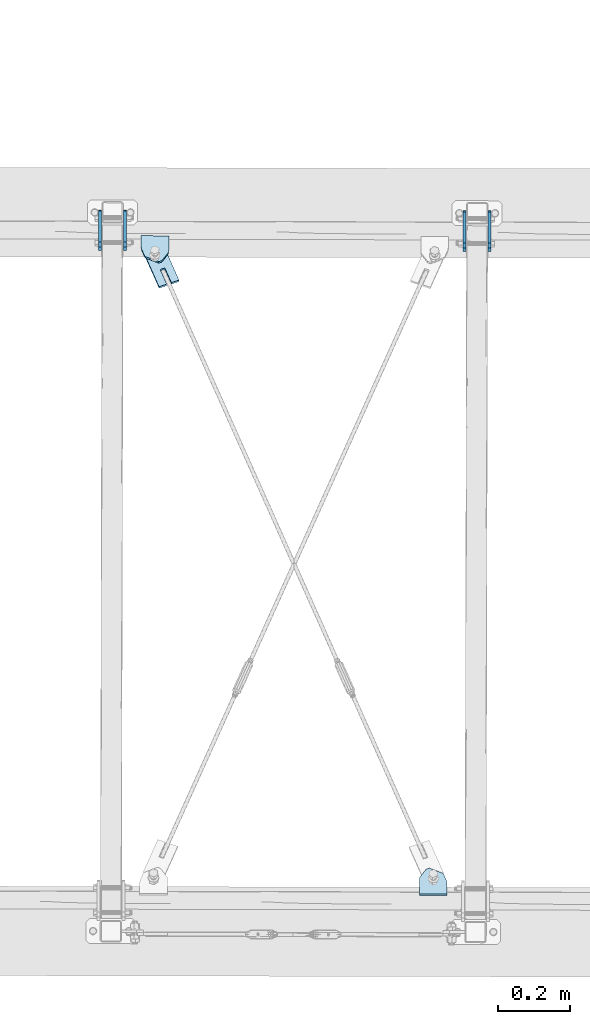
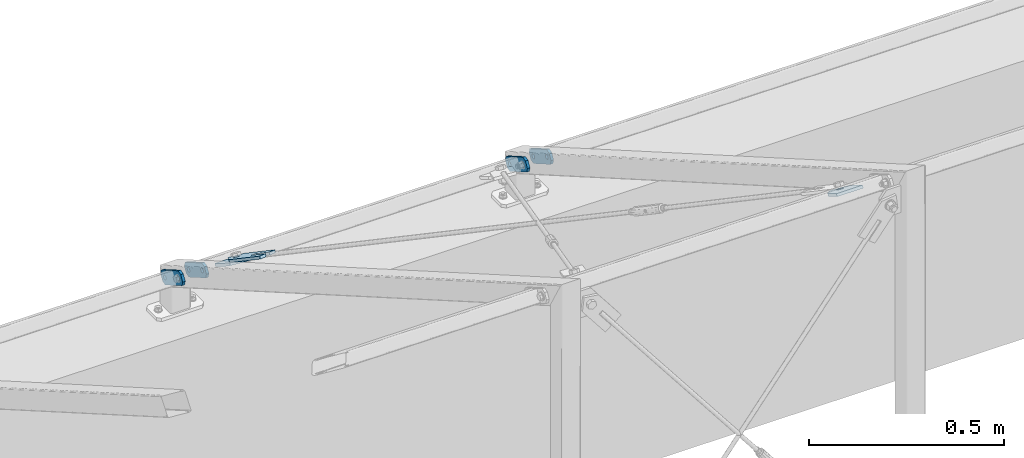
# One storey, part 35 of 288: 7 plates, 36 openings.
"""IFC2X3 building model written with IfcOpenShell, lengths in millimetres."""

from ifc_helpers import new_model, entity, si_unit, converted_unit, point, frame, frame_2d, origin, origin_with_axes, place, context, project, spatial, polyline, circle_curve, line_curve, trimmed, segment, composite_curve, circle, outline, extrude, material, layer, layer_set, element, save


model = new_model("IFC2X3")

# Units and contexts
model_context = context("Model", 3, precision=1e-09, world=origin_with_axes())
ifc_project = project(units=[si_unit("LENGTHUNIT", "METRE", prefix="MILLI"), si_unit("AREAUNIT", "SQUARE_METRE"), si_unit("VOLUMEUNIT", "CUBIC_METRE"), converted_unit("PLANEANGLEUNIT", "DEGREE", entity("IfcPlaneAngleMeasure", 0.01745329), si_unit("PLANEANGLEUNIT", "RADIAN"), dimensions=[0, 0, 0, 0, 0, 0, 0])], contexts=[model_context])

# Site, building, storey
site_placement = place(None, origin_with_axes())
site = spatial("IfcSite", under=ifc_project, at=site_placement, Name="Remont ?wietlik?w nad MC w NCPP w Opolu", CompositionType="ELEMENT")
building_placement = place(site_placement, origin_with_axes())
building = spatial("IfcBuilding", under=site, at=building_placement, Name="Konstrukcja 1", CompositionType="ELEMENT")
storey_placement = place(building_placement, origin_with_axes())
storey = spatial("IfcBuildingStorey", under=building, at=storey_placement, Name="Default Storey", CompositionType="ELEMENT", Elevation=0.0)

# Plate, openings
ifc_material = material(Name="S235")
ifc_layer = layer(ifc_material, 8.0)
ifc_layer_set = layer_set([ifc_layer], Name="S235")
plate_1_placement = place(None, frame((5962.114780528, 1759.704385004, 151.014707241), z_axis=(0.999997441, -0.002262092, 1.05e-07), x_axis=(0.001959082, 0.866023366, -0.499999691)))
plate_1 = element("IfcPlate", 1, at=plate_1_placement, inside=storey, material=ifc_layer_set, Name="-", ObjectType="-", context=model_context, shape_type="SweptSolid", body=[
    extrude(outline(polyline([(0.0, 0.0), (120.0, 0.0), (120.0, 40.0), (0.0, 40.0), (0.0, 0.0)])), origin_with_axes(), (0.0, 0.0, 1.0), 8.0),
])
opening_1_placement = place(plate_1_placement, frame((0.0, 0.0, -0.01), z_axis=(0.0, 0.0, 1.0), x_axis=(1.0, 0.0, 0.0)))
element("IfcOpeningElement", 2, at=opening_1_placement, cuts=plate_1, ObjectType="Opening", context=model_context, shape_type="SweptSolid", body=[
    extrude(outline(composite_curve([segment(trimmed(line_curve((0.0, 40.0), (0.0, -1.0), 10.0), [point((0.0, 40.0))], [point((0.0, 30.0))], True, "CARTESIAN"), True, "CONTINUOUS"), segment(trimmed(circle_curve(frame_2d((10.0, 30.0), x_axis=(-1.0, 0.0)), 10.0), [point((0.0, 30.0))], [point((10.0, 40.0))], False, "CARTESIAN"), True, "CONTINUOUS"), segment(trimmed(line_curve((10.0, 40.0), (-1.0, 0.0), 10.0), [point((10.0, 40.0))], [point((0.0, 40.0))], True, "CARTESIAN"), True, "CONTINUOUS")], self_intersect=False)), origin(), (0.0, 0.0, 1.0), 8.02),
])
opening_2_placement = place(plate_1_placement, frame((0.0, 0.0, -0.01), z_axis=(0.0, 0.0, 1.0), x_axis=(1.0, 0.0, 0.0)))
element("IfcOpeningElement", 3, at=opening_2_placement, cuts=plate_1, ObjectType="Opening", context=model_context, shape_type="SweptSolid", body=[
    extrude(outline(composite_curve([segment(trimmed(line_curve((0.0, 0.0), (1.0, 0.0), 10.0), [point((0.0, 0.0))], [point((10.0, 0.0))], True, "CARTESIAN"), True, "CONTINUOUS"), segment(trimmed(circle_curve(frame_2d((10.0, 10.0), x_axis=(-1.0, 0.0)), 10.0), [point((10.0, 0.0))], [point((0.0, 10.0))], False, "CARTESIAN"), True, "CONTINUOUS"), segment(trimmed(line_curve((0.0, 10.0), (0.0, -1.0), 10.0), [point((0.0, 10.0))], [point((0.0, 0.0))], True, "CARTESIAN"), True, "CONTINUOUS")], self_intersect=False)), origin(), (0.0, 0.0, 1.0), 8.02),
])
opening_3_placement = place(plate_1_placement, frame((0.0, 0.0, -0.01), z_axis=(0.0, 0.0, 1.0), x_axis=(1.0, 0.0, 0.0)))
element("IfcOpeningElement", 4, at=opening_3_placement, cuts=plate_1, ObjectType="Opening", context=model_context, shape_type="SweptSolid", body=[
    extrude(outline(composite_curve([segment(trimmed(line_curve((120.0, 40.0), (-1.0, 0.0), 10.0), [point((120.0, 40.0))], [point((110.0, 40.0))], True, "CARTESIAN"), True, "CONTINUOUS"), segment(trimmed(circle_curve(frame_2d((110.0, 30.0), x_axis=(-1.0, 0.0)), 10.0), [point((110.0, 40.0))], [point((120.0, 30.0))], False, "CARTESIAN"), True, "CONTINUOUS"), segment(trimmed(line_curve((120.0, 30.0), (0.0, 1.0), 10.0), [point((120.0, 30.0))], [point((120.0, 40.0))], True, "CARTESIAN"), True, "CONTINUOUS")], self_intersect=False)), origin(), (0.0, 0.0, 1.0), 8.02),
])
opening_4_placement = place(plate_1_placement, frame((0.0, 0.0, -0.01), z_axis=(0.0, 0.0, 1.0), x_axis=(1.0, 0.0, 0.0)))
element("IfcOpeningElement", 5, at=opening_4_placement, cuts=plate_1, ObjectType="Opening", context=model_context, shape_type="SweptSolid", body=[
    extrude(outline(composite_curve([segment(trimmed(line_curve((120.0, 0.0), (0.0, 1.0), 10.0), [point((120.0, 0.0))], [point((120.0, 10.0))], True, "CARTESIAN"), True, "CONTINUOUS"), segment(trimmed(circle_curve(frame_2d((110.0, 10.0), x_axis=(-1.0, 0.0)), 10.0), [point((120.0, 10.0))], [point((110.0, 0.0))], False, "CARTESIAN"), True, "CONTINUOUS"), segment(trimmed(line_curve((110.0, 0.0), (1.0, 0.0), 10.0), [point((110.0, 0.0))], [point((120.0, 0.0))], True, "CARTESIAN"), True, "CONTINUOUS")], self_intersect=False)), origin(), (0.0, 0.0, 1.0), 8.02),
])
opening_5_placement = place(plate_1_placement, frame((60.0, 20.000292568, 8.5), z_axis=(0.0, 0.0, -1.0), x_axis=(-1.0, 0.0, 0.0)))
element("IfcOpeningElement", 6, at=opening_5_placement, cuts=plate_1, ObjectType="Opening", context=model_context, shape_type="SweptSolid", body=[
    extrude(circle(Radius=7.001, at=frame_2d((40.0, 0.0), x_axis=(1.0, 0.0))), origin(), (0.0, 0.0, 1.0), 9.0),
])
opening_6_placement = place(plate_1_placement, frame((60.0, 20.000292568, 8.5), z_axis=(0.0, 0.0, -1.0), x_axis=(-1.0, 0.0, 0.0)))
element("IfcOpeningElement", 7, at=opening_6_placement, cuts=plate_1, ObjectType="Opening", context=model_context, shape_type="SweptSolid", body=[
    extrude(circle(Radius=7.001, at=frame_2d((-40.0, 0.0), x_axis=(1.0, 0.0))), origin(), (0.0, 0.0, 1.0), 9.0),
])

plate_2_placement = place(None, frame((6032.114751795, 1759.546184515, 151.014967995), z_axis=(0.999997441, -0.002262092, 1.05e-07), x_axis=(0.001959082, 0.866023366, -0.499999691)))
plate_2 = element("IfcPlate", 8, at=plate_2_placement, inside=storey, material=ifc_layer_set, Name="-", ObjectType="-", context=model_context, shape_type="SweptSolid", body=[
    extrude(outline(polyline([(0.0, 0.0), (120.0, 0.0), (120.0, 40.0), (0.0, 40.0), (0.0, 0.0)])), origin_with_axes(), (0.0, 0.0, 1.0), 8.0),
])
opening_7_placement = place(plate_2_placement, frame((0.0, 0.0, -0.01), z_axis=(0.0, 0.0, 1.0), x_axis=(1.0, 0.0, 0.0)))
element("IfcOpeningElement", 9, at=opening_7_placement, cuts=plate_2, ObjectType="Opening", context=model_context, shape_type="SweptSolid", body=[
    extrude(outline(composite_curve([segment(trimmed(line_curve((0.0, 40.0), (0.0, -1.0), 10.0), [point((0.0, 40.0))], [point((0.0, 30.0))], True, "CARTESIAN"), True, "CONTINUOUS"), segment(trimmed(circle_curve(frame_2d((10.0, 30.0), x_axis=(-1.0, 0.0)), 10.0), [point((0.0, 30.0))], [point((10.0, 40.0))], False, "CARTESIAN"), True, "CONTINUOUS"), segment(trimmed(line_curve((10.0, 40.0), (-1.0, 0.0), 10.0), [point((10.0, 40.0))], [point((0.0, 40.0))], True, "CARTESIAN"), True, "CONTINUOUS")], self_intersect=False)), origin(), (0.0, 0.0, 1.0), 8.02),
])
opening_8_placement = place(plate_2_placement, frame((0.0, 0.0, -0.01), z_axis=(0.0, 0.0, 1.0), x_axis=(1.0, 0.0, 0.0)))
element("IfcOpeningElement", 10, at=opening_8_placement, cuts=plate_2, ObjectType="Opening", context=model_context, shape_type="SweptSolid", body=[
    extrude(outline(composite_curve([segment(trimmed(line_curve((0.0, 0.0), (1.0, 0.0), 10.0), [point((0.0, 0.0))], [point((10.0, 0.0))], True, "CARTESIAN"), True, "CONTINUOUS"), segment(trimmed(circle_curve(frame_2d((10.0, 10.0), x_axis=(-1.0, 0.0)), 10.0), [point((10.0, 0.0))], [point((0.0, 10.0))], False, "CARTESIAN"), True, "CONTINUOUS"), segment(trimmed(line_curve((0.0, 10.0), (0.0, -1.0), 10.0), [point((0.0, 10.0))], [point((0.0, 0.0))], True, "CARTESIAN"), True, "CONTINUOUS")], self_intersect=False)), origin(), (0.0, 0.0, 1.0), 8.02),
])
opening_9_placement = place(plate_2_placement, frame((0.0, 0.0, -0.01), z_axis=(0.0, 0.0, 1.0), x_axis=(1.0, 0.0, 0.0)))
element("IfcOpeningElement", 11, at=opening_9_placement, cuts=plate_2, ObjectType="Opening", context=model_context, shape_type="SweptSolid", body=[
    extrude(outline(composite_curve([segment(trimmed(line_curve((120.0, 40.0), (-1.0, 0.0), 10.0), [point((120.0, 40.0))], [point((110.0, 40.0))], True, "CARTESIAN"), True, "CONTINUOUS"), segment(trimmed(circle_curve(frame_2d((110.0, 30.0), x_axis=(-1.0, 0.0)), 10.0), [point((110.0, 40.0))], [point((120.0, 30.0))], False, "CARTESIAN"), True, "CONTINUOUS"), segment(trimmed(line_curve((120.0, 30.0), (0.0, 1.0), 10.0), [point((120.0, 30.0))], [point((120.0, 40.0))], True, "CARTESIAN"), True, "CONTINUOUS")], self_intersect=False)), origin(), (0.0, 0.0, 1.0), 8.02),
])
opening_10_placement = place(plate_2_placement, frame((0.0, 0.0, -0.01), z_axis=(0.0, 0.0, 1.0), x_axis=(1.0, 0.0, 0.0)))
element("IfcOpeningElement", 12, at=opening_10_placement, cuts=plate_2, ObjectType="Opening", context=model_context, shape_type="SweptSolid", body=[
    extrude(outline(composite_curve([segment(trimmed(line_curve((120.0, 0.0), (0.0, 1.0), 10.0), [point((120.0, 0.0))], [point((120.0, 10.0))], True, "CARTESIAN"), True, "CONTINUOUS"), segment(trimmed(circle_curve(frame_2d((110.0, 10.0), x_axis=(-1.0, 0.0)), 10.0), [point((120.0, 10.0))], [point((110.0, 0.0))], False, "CARTESIAN"), True, "CONTINUOUS"), segment(trimmed(line_curve((110.0, 0.0), (1.0, 0.0), 10.0), [point((110.0, 0.0))], [point((120.0, 0.0))], True, "CARTESIAN"), True, "CONTINUOUS")], self_intersect=False)), origin(), (0.0, 0.0, 1.0), 8.02),
])
opening_11_placement = place(plate_2_placement, frame((60.0, 20.0, 8.5), z_axis=(0.0, 0.0, -1.0), x_axis=(-1.0, 0.0, 0.0)))
element("IfcOpeningElement", 13, at=opening_11_placement, cuts=plate_2, ObjectType="Opening", context=model_context, shape_type="SweptSolid", body=[
    extrude(circle(Radius=7.001, at=frame_2d((40.0, 0.0), x_axis=(1.0, 0.0))), origin(), (0.0, 0.0, 1.0), 9.0),
])
opening_12_placement = place(plate_2_placement, frame((60.0, 20.0, 8.5), z_axis=(0.0, 0.0, -1.0), x_axis=(-1.0, 0.0, 0.0)))
element("IfcOpeningElement", 14, at=opening_12_placement, cuts=plate_2, ObjectType="Opening", context=model_context, shape_type="SweptSolid", body=[
    extrude(circle(Radius=7.001, at=frame_2d((-40.0, 0.0), x_axis=(1.0, 0.0))), origin(), (0.0, 0.0, 1.0), 9.0),
])

plate_3_placement = place(None, frame((6981.569316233, 1757.400191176, 151.018126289), z_axis=(0.999997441, -0.002262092, 1.05e-07), x_axis=(0.001959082, 0.866023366, -0.499999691)))
plate_3 = element("IfcPlate", 15, at=plate_3_placement, inside=storey, material=ifc_layer_set, Name="-", ObjectType="-", context=model_context, shape_type="SweptSolid", body=[
    extrude(outline(polyline([(0.0, 0.0), (120.0, 0.0), (120.0, 40.0), (0.0, 40.0), (0.0, 0.0)])), origin_with_axes(), (0.0, 0.0, 1.0), 8.0),
])
opening_13_placement = place(plate_3_placement, frame((0.0, 0.0, -0.01), z_axis=(0.0, 0.0, 1.0), x_axis=(1.0, 0.0, 0.0)))
element("IfcOpeningElement", 16, at=opening_13_placement, cuts=plate_3, ObjectType="Opening", context=model_context, shape_type="SweptSolid", body=[
    extrude(outline(composite_curve([segment(trimmed(line_curve((0.0, 40.0), (0.0, -1.0), 10.0), [point((0.0, 40.0))], [point((0.0, 30.0))], True, "CARTESIAN"), True, "CONTINUOUS"), segment(trimmed(circle_curve(frame_2d((10.0, 30.0), x_axis=(-1.0, 0.0)), 10.0), [point((0.0, 30.0))], [point((10.0, 40.0))], False, "CARTESIAN"), True, "CONTINUOUS"), segment(trimmed(line_curve((10.0, 40.0), (-1.0, 0.0), 10.0), [point((10.0, 40.0))], [point((0.0, 40.0))], True, "CARTESIAN"), True, "CONTINUOUS")], self_intersect=False)), origin(), (0.0, 0.0, 1.0), 8.02),
])
opening_14_placement = place(plate_3_placement, frame((0.0, 0.0, -0.01), z_axis=(0.0, 0.0, 1.0), x_axis=(1.0, 0.0, 0.0)))
element("IfcOpeningElement", 17, at=opening_14_placement, cuts=plate_3, ObjectType="Opening", context=model_context, shape_type="SweptSolid", body=[
    extrude(outline(composite_curve([segment(trimmed(line_curve((0.0, 0.0), (1.0, 0.0), 10.0), [point((0.0, 0.0))], [point((10.0, 0.0))], True, "CARTESIAN"), True, "CONTINUOUS"), segment(trimmed(circle_curve(frame_2d((10.0, 10.0), x_axis=(-1.0, 0.0)), 10.0), [point((10.0, 0.0))], [point((0.0, 10.0))], False, "CARTESIAN"), True, "CONTINUOUS"), segment(trimmed(line_curve((0.0, 10.0), (0.0, -1.0), 10.0), [point((0.0, 10.0))], [point((0.0, 0.0))], True, "CARTESIAN"), True, "CONTINUOUS")], self_intersect=False)), origin(), (0.0, 0.0, 1.0), 8.02),
])
opening_15_placement = place(plate_3_placement, frame((0.0, 0.0, -0.01), z_axis=(0.0, 0.0, 1.0), x_axis=(1.0, 0.0, 0.0)))
element("IfcOpeningElement", 18, at=opening_15_placement, cuts=plate_3, ObjectType="Opening", context=model_context, shape_type="SweptSolid", body=[
    extrude(outline(composite_curve([segment(trimmed(line_curve((120.0, 40.0), (-1.0, 0.0), 10.0), [point((120.0, 40.0))], [point((110.0, 40.0))], True, "CARTESIAN"), True, "CONTINUOUS"), segment(trimmed(circle_curve(frame_2d((110.0, 30.0), x_axis=(-1.0, 0.0)), 10.0), [point((110.0, 40.0))], [point((120.0, 30.0))], False, "CARTESIAN"), True, "CONTINUOUS"), segment(trimmed(line_curve((120.0, 30.0), (0.0, 1.0), 10.0), [point((120.0, 30.0))], [point((120.0, 40.0))], True, "CARTESIAN"), True, "CONTINUOUS")], self_intersect=False)), origin(), (0.0, 0.0, 1.0), 8.02),
])
opening_16_placement = place(plate_3_placement, frame((0.0, 0.0, -0.01), z_axis=(0.0, 0.0, 1.0), x_axis=(1.0, 0.0, 0.0)))
element("IfcOpeningElement", 19, at=opening_16_placement, cuts=plate_3, ObjectType="Opening", context=model_context, shape_type="SweptSolid", body=[
    extrude(outline(composite_curve([segment(trimmed(line_curve((120.0, 0.0), (0.0, 1.0), 10.0), [point((120.0, 0.0))], [point((120.0, 10.0))], True, "CARTESIAN"), True, "CONTINUOUS"), segment(trimmed(circle_curve(frame_2d((110.0, 10.0), x_axis=(-1.0, 0.0)), 10.0), [point((120.0, 10.0))], [point((110.0, 0.0))], False, "CARTESIAN"), True, "CONTINUOUS"), segment(trimmed(line_curve((110.0, 0.0), (1.0, 0.0), 10.0), [point((110.0, 0.0))], [point((120.0, 0.0))], True, "CARTESIAN"), True, "CONTINUOUS")], self_intersect=False)), origin(), (0.0, 0.0, 1.0), 8.02),
])
opening_17_placement = place(plate_3_placement, frame((27.001, 20.000292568, -0.5), z_axis=(0.0, 0.0, -1.0), x_axis=(-1.0, 0.0, 0.0)))
element("IfcOpeningElement", 20, at=opening_17_placement, cuts=plate_3, ObjectType="Opening", context=model_context, shape_type="SweptSolid", body=[
    extrude(circle(Radius=7.001, at=frame_2d((7.001, 0.0), x_axis=(1.0, 0.0))), origin(), (0.0, 0.0, -1.0), 9.0),
])
opening_18_placement = place(plate_3_placement, frame((107.001, 20.000292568, -0.5), z_axis=(0.0, 0.0, -1.0), x_axis=(-1.0, 0.0, 0.0)))
element("IfcOpeningElement", 21, at=opening_18_placement, cuts=plate_3, ObjectType="Opening", context=model_context, shape_type="SweptSolid", body=[
    extrude(circle(Radius=7.001, at=frame_2d((7.001, 0.0), x_axis=(1.0, 0.0))), origin(), (0.0, 0.0, -1.0), 9.0),
])

plate_4_placement = place(None, frame((7051.5692875, 1757.241990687, 151.018387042), z_axis=(0.999997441, -0.002262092, 1.05e-07), x_axis=(0.001959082, 0.866023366, -0.499999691)))
plate_4 = element("IfcPlate", 22, at=plate_4_placement, inside=storey, material=ifc_layer_set, Name="-", ObjectType="-", context=model_context, shape_type="SweptSolid", body=[
    extrude(outline(polyline([(0.0, 0.0), (120.0, 0.0), (120.0, 40.0), (0.0, 40.0), (0.0, 0.0)])), origin_with_axes(), (0.0, 0.0, 1.0), 8.0),
])
opening_19_placement = place(plate_4_placement, frame((0.0, 0.0, -0.01), z_axis=(0.0, 0.0, 1.0), x_axis=(1.0, 0.0, 0.0)))
element("IfcOpeningElement", 23, at=opening_19_placement, cuts=plate_4, ObjectType="Opening", context=model_context, shape_type="SweptSolid", body=[
    extrude(outline(composite_curve([segment(trimmed(line_curve((0.0, 40.0), (0.0, -1.0), 10.0), [point((0.0, 40.0))], [point((0.0, 30.0))], True, "CARTESIAN"), True, "CONTINUOUS"), segment(trimmed(circle_curve(frame_2d((10.0, 30.0), x_axis=(-1.0, 0.0)), 10.0), [point((0.0, 30.0))], [point((10.0, 40.0))], False, "CARTESIAN"), True, "CONTINUOUS"), segment(trimmed(line_curve((10.0, 40.0), (-1.0, 0.0), 10.0), [point((10.0, 40.0))], [point((0.0, 40.0))], True, "CARTESIAN"), True, "CONTINUOUS")], self_intersect=False)), origin(), (0.0, 0.0, 1.0), 8.02),
])
opening_20_placement = place(plate_4_placement, frame((0.0, 0.0, -0.01), z_axis=(0.0, 0.0, 1.0), x_axis=(1.0, 0.0, 0.0)))
element("IfcOpeningElement", 24, at=opening_20_placement, cuts=plate_4, ObjectType="Opening", context=model_context, shape_type="SweptSolid", body=[
    extrude(outline(composite_curve([segment(trimmed(line_curve((0.0, 0.0), (1.0, 0.0), 10.0), [point((0.0, 0.0))], [point((10.0, 0.0))], True, "CARTESIAN"), True, "CONTINUOUS"), segment(trimmed(circle_curve(frame_2d((10.0, 10.0), x_axis=(-1.0, 0.0)), 10.0), [point((10.0, 0.0))], [point((0.0, 10.0))], False, "CARTESIAN"), True, "CONTINUOUS"), segment(trimmed(line_curve((0.0, 10.0), (0.0, -1.0), 10.0), [point((0.0, 10.0))], [point((0.0, 0.0))], True, "CARTESIAN"), True, "CONTINUOUS")], self_intersect=False)), origin(), (0.0, 0.0, 1.0), 8.02),
])
opening_21_placement = place(plate_4_placement, frame((0.0, 0.0, -0.01), z_axis=(0.0, 0.0, 1.0), x_axis=(1.0, 0.0, 0.0)))
element("IfcOpeningElement", 25, at=opening_21_placement, cuts=plate_4, ObjectType="Opening", context=model_context, shape_type="SweptSolid", body=[
    extrude(outline(composite_curve([segment(trimmed(line_curve((120.0, 40.0), (-1.0, 0.0), 10.0), [point((120.0, 40.0))], [point((110.0, 40.0))], True, "CARTESIAN"), True, "CONTINUOUS"), segment(trimmed(circle_curve(frame_2d((110.0, 30.0), x_axis=(-1.0, 0.0)), 10.0), [point((110.0, 40.0))], [point((120.0, 30.0))], False, "CARTESIAN"), True, "CONTINUOUS"), segment(trimmed(line_curve((120.0, 30.0), (0.0, 1.0), 10.0), [point((120.0, 30.0))], [point((120.0, 40.0))], True, "CARTESIAN"), True, "CONTINUOUS")], self_intersect=False)), origin(), (0.0, 0.0, 1.0), 8.02),
])
opening_22_placement = place(plate_4_placement, frame((0.0, 0.0, -0.01), z_axis=(0.0, 0.0, 1.0), x_axis=(1.0, 0.0, 0.0)))
element("IfcOpeningElement", 26, at=opening_22_placement, cuts=plate_4, ObjectType="Opening", context=model_context, shape_type="SweptSolid", body=[
    extrude(outline(composite_curve([segment(trimmed(line_curve((120.0, 0.0), (0.0, 1.0), 10.0), [point((120.0, 0.0))], [point((120.0, 10.0))], True, "CARTESIAN"), True, "CONTINUOUS"), segment(trimmed(circle_curve(frame_2d((110.0, 10.0), x_axis=(-1.0, 0.0)), 10.0), [point((120.0, 10.0))], [point((110.0, 0.0))], False, "CARTESIAN"), True, "CONTINUOUS"), segment(trimmed(line_curve((110.0, 0.0), (1.0, 0.0), 10.0), [point((110.0, 0.0))], [point((120.0, 0.0))], True, "CARTESIAN"), True, "CONTINUOUS")], self_intersect=False)), origin(), (0.0, 0.0, 1.0), 8.02),
])
opening_23_placement = place(plate_4_placement, frame((27.001, 20.0, -0.5), z_axis=(0.0, 0.0, -1.0), x_axis=(-1.0, 0.0, 0.0)))
element("IfcOpeningElement", 27, at=opening_23_placement, cuts=plate_4, ObjectType="Opening", context=model_context, shape_type="SweptSolid", body=[
    extrude(circle(Radius=7.001, at=frame_2d((7.001, 0.0), x_axis=(1.0, 0.0))), origin(), (0.0, 0.0, -1.0), 9.0),
])
opening_24_placement = place(plate_4_placement, frame((107.001, 20.0, -0.5), z_axis=(0.0, 0.0, -1.0), x_axis=(-1.0, 0.0, 0.0)))
element("IfcOpeningElement", 28, at=opening_24_placement, cuts=plate_4, ObjectType="Opening", context=model_context, shape_type="SweptSolid", body=[
    extrude(circle(Radius=7.001, at=frame_2d((7.001, 0.0), x_axis=(1.0, 0.0))), origin(), (0.0, 0.0, -1.0), 9.0),
])

plate_5_placement = place(None, frame((6859.293833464, 28.694635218, 1176.955345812), z_axis=(-0.001127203, -0.499998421, -0.866025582), x_axis=(0.932687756, 0.311835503, -0.181251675)))
plate_5 = element("IfcPlate", 29, at=plate_5_placement, inside=storey, material=ifc_layer_set, Name="Gusset#1", ObjectType="Gusset#1", context=model_context, shape_type="SweptSolid", body=[
    extrude(outline(polyline([(0.0, 0.0), (60.0, 0.0), (60.0, 60.0), (45.922042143, 96.193155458), (-26.464268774, 68.037239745), (0.0, 0.0)])), origin_with_axes(), (0.0, 0.0, 1.0), 8.0),
])
opening_25_placement = place(plate_5_placement, frame((30.0, 39.001, 8.5), z_axis=(0.0, 0.0, 1.0), x_axis=(1.0, 0.0, 0.0)))
element("IfcOpeningElement", 30, at=opening_25_placement, cuts=plate_5, ObjectType="Opening", context=model_context, shape_type="SweptSolid", body=[
    extrude(circle(Radius=9.001, at=frame_2d((0.0, -9.001), x_axis=(1.0, 0.0))), origin(), (0.0, 0.0, -1.0), 9.0),
])
opening_26_placement = place(plate_5_placement, frame((0.0, 0.0, -0.01), z_axis=(0.0, 0.0, 1.0), x_axis=(1.0, 0.0, 0.0)))
element("IfcOpeningElement", 31, at=opening_26_placement, cuts=plate_5, ObjectType="Opening", context=model_context, shape_type="SweptSolid", body=[
    extrude(outline(composite_curve([segment(trimmed(line_curve((0.0, 0.0), (1.0, 0.0), 20.520511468), [point((0.0, 0.0))], [point((20.520511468, 0.0))], True, "CARTESIAN"), True, "CONTINUOUS"), segment(trimmed(circle_curve(frame_2d((20.520511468, 30.0), x_axis=(-1.0, 0.0)), 30.0), [point((20.520511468, 0.0))], [point((-7.438887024, 19.124705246))], False, "CARTESIAN"), True, "CONTINUOUS"), segment(trimmed(line_curve((-7.438887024, 19.124705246), (0.362509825, -0.93197995), 20.520511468), [point((-7.438887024, 19.124705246))], [point((0.0, 0.0))], True, "CARTESIAN"), True, "CONTINUOUS")], self_intersect=False)), origin(), (0.0, 0.0, 1.0), 8.02),
])
opening_27_placement = place(plate_5_placement, frame((0.0, 0.0, -0.01), z_axis=(0.0, 0.0, 1.0), x_axis=(1.0, 0.0, 0.0)))
element("IfcOpeningElement", 32, at=opening_27_placement, cuts=plate_5, ObjectType="Opening", context=model_context, shape_type="SweptSolid", body=[
    extrude(outline(composite_curve([segment(trimmed(line_curve((60.0, 0.0), (0.0, 1.0), 30.0), [point((60.0, 0.0))], [point((60.0, 30.0))], True, "CARTESIAN"), True, "CONTINUOUS"), segment(trimmed(circle_curve(frame_2d((30.0, 30.0), x_axis=(-1.0, 0.0)), 30.0), [point((60.0, 30.0))], [point((30.0, 0.0))], False, "CARTESIAN"), True, "CONTINUOUS"), segment(trimmed(line_curve((30.0, 0.0), (1.0, 0.0), 30.0), [point((30.0, 0.0))], [point((60.0, 0.0))], True, "CARTESIAN"), True, "CONTINUOUS")], self_intersect=False)), origin(), (0.0, 0.0, 1.0), 8.02),
])
opening_28_placement = place(plate_5_placement, frame((0.0, 0.0, -0.01), z_axis=(0.0, 0.0, 1.0), x_axis=(1.0, 0.0, 0.0)))
element("IfcOpeningElement", 33, at=opening_28_placement, cuts=plate_5, ObjectType="Opening", context=model_context, shape_type="SweptSolid", body=[
    extrude(outline(composite_curve([segment(trimmed(line_curve((60.0, 60.0), (-0.362509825, 0.93197995), 5.62909297), [point((60.0, 60.0))], [point((57.959398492, 65.246201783))], True, "CARTESIAN"), True, "CONTINUOUS"), segment(trimmed(circle_curve(frame_2d((30.0, 54.37090703), x_axis=(-1.0, 0.0)), 30.0), [point((57.959398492, 65.246201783))], [point((60.0, 54.37090703))], False, "CARTESIAN"), True, "CONTINUOUS"), segment(trimmed(line_curve((60.0, 54.37090703), (0.0, 1.0), 5.62909297), [point((60.0, 54.37090703))], [point((60.0, 60.0))], True, "CARTESIAN"), True, "CONTINUOUS")], self_intersect=False)), origin(), (0.0, 0.0, 1.0), 8.02),
])

plate_6_placement = place(None, frame((6131.334837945, 1659.334245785, 236.455792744), z_axis=(0.001127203, 0.499998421, 0.866025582), x_axis=(0.932687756, 0.311835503, -0.181251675)))
plate_6 = element("IfcPlate", 34, at=plate_6_placement, inside=storey, material=ifc_layer_set, Name="Tab_Plate#2", ObjectType="Tab_Plate#2", context=model_context, shape_type="SweptSolid", body=[
    extrude(outline(polyline([(0.0, 0.0), (60.0, 0.0), (60.0, 140.0), (0.0, 140.0), (0.0, 0.0)])), origin_with_axes(), (0.0, 0.0, 1.0), 8.0),
])
opening_29_placement = place(plate_6_placement, frame((0.0, 0.0, -0.01), z_axis=(0.0, 0.0, 1.0), x_axis=(1.0, 0.0, 0.0)))
element("IfcOpeningElement", 35, at=opening_29_placement, cuts=plate_6, ObjectType="Opening", context=model_context, shape_type="SweptSolid", body=[
    extrude(outline(composite_curve([segment(trimmed(line_curve((60.0, 140.0), (-1.0, 0.0), 30.0), [point((60.0, 140.0))], [point((30.0, 140.0))], True, "CARTESIAN"), True, "CONTINUOUS"), segment(trimmed(circle_curve(frame_2d((30.0, 110.0), x_axis=(-1.0, 0.0)), 30.0), [point((30.0, 140.0))], [point((60.0, 110.0))], False, "CARTESIAN"), True, "CONTINUOUS"), segment(trimmed(line_curve((60.0, 110.0), (0.0, 1.0), 30.0), [point((60.0, 110.0))], [point((60.0, 140.0))], True, "CARTESIAN"), True, "CONTINUOUS")], self_intersect=False)), origin(), (0.0, 0.0, 1.0), 8.02),
])
opening_30_placement = place(plate_6_placement, frame((0.0, 0.0, -0.01), z_axis=(0.0, 0.0, 1.0), x_axis=(1.0, 0.0, 0.0)))
element("IfcOpeningElement", 36, at=opening_30_placement, cuts=plate_6, ObjectType="Opening", context=model_context, shape_type="SweptSolid", body=[
    extrude(outline(composite_curve([segment(trimmed(line_curve((0.0, 140.0), (0.0, -1.0), 30.0), [point((0.0, 140.0))], [point((0.0, 110.0))], True, "CARTESIAN"), True, "CONTINUOUS"), segment(trimmed(circle_curve(frame_2d((30.0, 110.0), x_axis=(-1.0, 0.0)), 30.0), [point((0.0, 110.0))], [point((30.0, 140.0))], False, "CARTESIAN"), True, "CONTINUOUS"), segment(trimmed(line_curve((30.0, 140.0), (-1.0, 0.0), 30.0), [point((30.0, 140.0))], [point((0.0, 140.0))], True, "CARTESIAN"), True, "CONTINUOUS")], self_intersect=False)), origin(), (0.0, 0.0, 1.0), 8.02),
])
opening_31_placement = place(plate_6_placement, frame((0.0, 0.0, 8.1), z_axis=(0.0, 0.0, -1.0), x_axis=(0.931982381, -0.362503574, 0.0)))
element("IfcOpeningElement", 37, at=opening_31_placement, cuts=plate_6, ObjectType="Opening", context=model_context, shape_type="SweptSolid", body=[
    extrude(outline(polyline([(2.946618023, -55.86925312), (15.996235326, -60.94502816), (34.484642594, -13.412062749), (21.435025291, -8.33628771), (2.946618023, -55.86925312)])), origin(), (0.0, 0.0, 1.0), 8.2),
])
opening_32_placement = place(plate_6_placement, frame((30.0, 119.001, -0.5), z_axis=(0.0, 0.0, -1.0), x_axis=(-1.0, 0.0, 0.0)))
element("IfcOpeningElement", 38, at=opening_32_placement, cuts=plate_6, ObjectType="Opening", context=model_context, shape_type="SweptSolid", body=[
    extrude(circle(Radius=9.001, at=frame_2d((0.0, -9.001), x_axis=(1.0, 0.0))), origin(), (0.0, 0.0, -1.0), 9.0),
])

plate_7_placement = place(None, frame((6158.44145738, 1742.679237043, 188.301419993), z_axis=(-0.001127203, -0.499998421, -0.866025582), x_axis=(-0.932687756, -0.311835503, 0.181251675)))
plate_7 = element("IfcPlate", 39, at=plate_7_placement, inside=storey, material=ifc_layer_set, Name="Gusset#2", ObjectType="Gusset#2", context=model_context, shape_type="SweptSolid", body=[
    extrude(outline(polyline([(0.0, 0.0), (60.0, 0.0), (60.0, 60.0), (45.922042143, 96.193155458), (-26.464268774, 68.037239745), (0.0, 0.0)])), origin_with_axes(), (0.0, 0.0, 1.0), 8.0),
])
opening_33_placement = place(plate_7_placement, frame((30.0, 39.001, 8.5), z_axis=(0.0, 0.0, 1.0), x_axis=(1.0, 0.0, 0.0)))
element("IfcOpeningElement", 40, at=opening_33_placement, cuts=plate_7, ObjectType="Opening", context=model_context, shape_type="SweptSolid", body=[
    extrude(circle(Radius=9.001, at=frame_2d((0.0, -9.001), x_axis=(1.0, 0.0))), origin(), (0.0, 0.0, -1.0), 9.0),
])
opening_34_placement = place(plate_7_placement, frame((0.0, 0.0, -0.01), z_axis=(0.0, 0.0, 1.0), x_axis=(1.0, 0.0, 0.0)))
element("IfcOpeningElement", 41, at=opening_34_placement, cuts=plate_7, ObjectType="Opening", context=model_context, shape_type="SweptSolid", body=[
    extrude(outline(composite_curve([segment(trimmed(line_curve((60.0, 60.0), (-0.362509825, 0.93197995), 5.62909297), [point((60.0, 60.0))], [point((57.959398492, 65.246201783))], True, "CARTESIAN"), True, "CONTINUOUS"), segment(trimmed(circle_curve(frame_2d((30.0, 54.37090703), x_axis=(-1.0, 0.0)), 30.0), [point((57.959398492, 65.246201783))], [point((60.0, 54.37090703))], False, "CARTESIAN"), True, "CONTINUOUS"), segment(trimmed(line_curve((60.0, 54.37090703), (0.0, 1.0), 5.62909297), [point((60.0, 54.37090703))], [point((60.0, 60.0))], True, "CARTESIAN"), True, "CONTINUOUS")], self_intersect=False)), origin(), (0.0, 0.0, 1.0), 8.02),
])
opening_35_placement = place(plate_7_placement, frame((0.0, 0.0, -0.01), z_axis=(0.0, 0.0, 1.0), x_axis=(1.0, 0.0, 0.0)))
element("IfcOpeningElement", 42, at=opening_35_placement, cuts=plate_7, ObjectType="Opening", context=model_context, shape_type="SweptSolid", body=[
    extrude(outline(composite_curve([segment(trimmed(line_curve((60.0, 0.0), (0.0, 1.0), 30.0), [point((60.0, 0.0))], [point((60.0, 30.0))], True, "CARTESIAN"), True, "CONTINUOUS"), segment(trimmed(circle_curve(frame_2d((30.0, 30.0), x_axis=(-1.0, 0.0)), 30.0), [point((60.0, 30.0))], [point((30.0, 0.0))], False, "CARTESIAN"), True, "CONTINUOUS"), segment(trimmed(line_curve((30.0, 0.0), (1.0, 0.0), 30.0), [point((30.0, 0.0))], [point((60.0, 0.0))], True, "CARTESIAN"), True, "CONTINUOUS")], self_intersect=False)), origin(), (0.0, 0.0, 1.0), 8.02),
])
opening_36_placement = place(plate_7_placement, frame((0.0, 0.0, -0.01), z_axis=(0.0, 0.0, 1.0), x_axis=(1.0, 0.0, 0.0)))
element("IfcOpeningElement", 43, at=opening_36_placement, cuts=plate_7, ObjectType="Opening", context=model_context, shape_type="SweptSolid", body=[
    extrude(outline(composite_curve([segment(trimmed(line_curve((0.0, 0.0), (1.0, 0.0), 20.520511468), [point((0.0, 0.0))], [point((20.520511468, 0.0))], True, "CARTESIAN"), True, "CONTINUOUS"), segment(trimmed(circle_curve(frame_2d((20.520511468, 30.0), x_axis=(-1.0, 0.0)), 30.0), [point((20.520511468, 0.0))], [point((-7.438887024, 19.124705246))], False, "CARTESIAN"), True, "CONTINUOUS"), segment(trimmed(line_curve((-7.438887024, 19.124705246), (0.362509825, -0.93197995), 20.520511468), [point((-7.438887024, 19.124705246))], [point((0.0, 0.0))], True, "CARTESIAN"), True, "CONTINUOUS")], self_intersect=False)), origin(), (0.0, 0.0, 1.0), 8.02),
])

save(model, "model.ifc")
